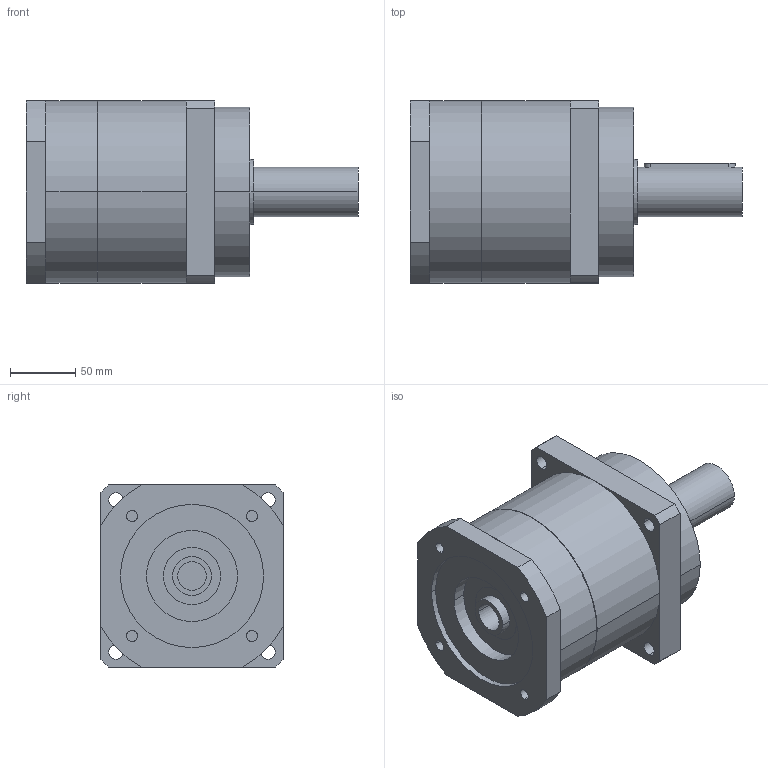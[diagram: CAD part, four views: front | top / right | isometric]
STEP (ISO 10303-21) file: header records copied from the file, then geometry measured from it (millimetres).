
FILE_DESCRIPTION(('CoCreate Modeling STEP Export'),'2;1');
FILE_NAME('GPR150_ig-3-4-5-7_38_B5_22_P04.stp','2014-08-26T15:29:12',(''),(''),'CoCreate Modeling STEP processor for AP214 (Solid Model)','CoCreate Modeling 16.00C 25-Feb-2009 (C) Parametric Technology GmbH','');
FILE_SCHEMA(('AUTOMOTIVE_DESIGN { 1 0 10303 214 1 1 1 1 }'));
Length unit declared in the file: millimetre
Products named in the file (2): GPR150_ig-3-4-5-7_38_B5_22_P04
Assembly tree (1 placements, depth 2):
  GPR150_ig-3-4-5-7_38_B5_22_P04
    GPR150_ig-3-4-5-7_38_B5_22_P04
Bounding box: 255 x 140 x 140 mm (x, y, z)
Volume: 2705450.9 mm3; surface area: 146877.3 mm2
Topology: 1 solids, 1 shells, 97 faces, 261 edges, 175 vertices
Faces by surface type: cylinder 56, plane 35, cone 6
Entity records: 2683 total; most frequent: ORIENTED_EDGE 518, CARTESIAN_POINT 485, DIRECTION 380, EDGE_CURVE 259, VERTEX_POINT 175, AXIS2_PLACEMENT_3D 142, EDGE_LOOP 124, FACE_OUTER_BOUND 97
